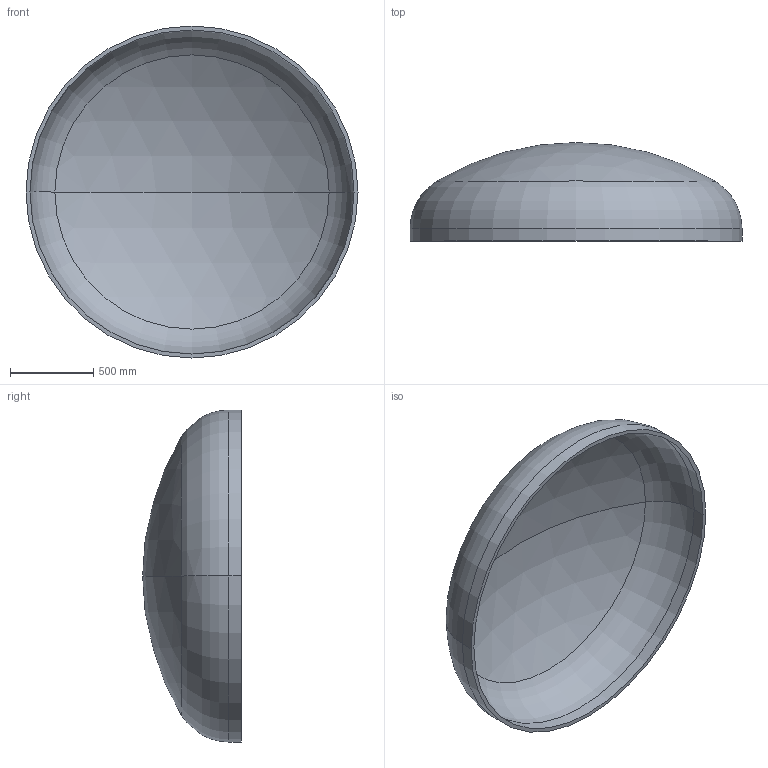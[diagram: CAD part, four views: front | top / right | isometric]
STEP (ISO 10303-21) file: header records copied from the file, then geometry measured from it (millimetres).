
FILE_DESCRIPTION (( 'STEP AP203' ), '1' );
FILE_NAME ('DIN 28013 Korbbogenform_-_Boden DIN 28013 - 2000 x 75 - I - s=24.step', '2016-07-01T13:43:14', ( '' ), ( '' ), 'SwSTEP 2.0', 'SolidWorks 2013', '' );
FILE_SCHEMA (( 'CONFIG_CONTROL_DESIGN' ));
Length unit declared in the file: millimetre
Products named in the file (1): DIN 28013 Korbbogenform_-_Boden DIN 28013 - 2000 x 75 - I - s=24
Bounding box: 2000 x 594.22 x 2000 mm (x, y, z)
Volume: 114086970.4 mm3; surface area: 9657437.4 mm2
Topology: 1 solids, 1 shells, 13 faces, 24 edges, 14 vertices
Faces by surface type: torus 4, cylinder 4, sphere 4, plane 1
Entity records: 407 total; most frequent: DIRECTION 72, CARTESIAN_POINT 52, ORIENTED_EDGE 48, AXIS2_PLACEMENT_3D 34, EDGE_CURVE 24, CIRCLE 20, VERTEX_POINT 14, EDGE_LOOP 14
